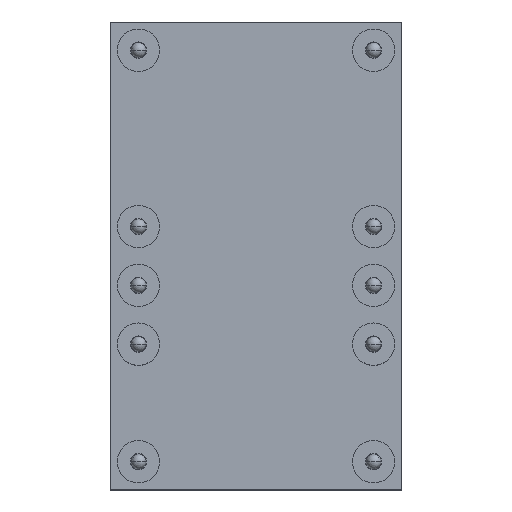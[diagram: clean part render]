
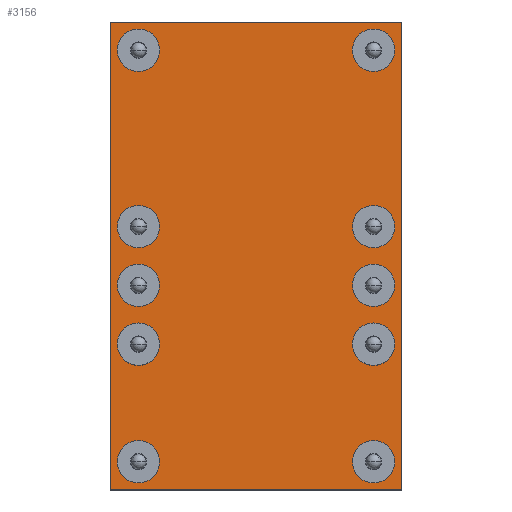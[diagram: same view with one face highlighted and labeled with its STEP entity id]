
A CAD part, top view. The second image highlights one B-rep face of the part: STEP entity #3156.
In plain terms, the highlighted planar face has unit normal (0, 0, 1) as drawn and (0, 0, -1) by its records, which use the part's own axes.
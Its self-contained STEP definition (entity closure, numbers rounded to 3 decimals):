
#1927=CARTESIAN_POINT('',(1.423,13.914,-0.031));
#1928=VERTEX_POINT('',#1927);
#1944=CARTESIAN_POINT('',(0.255,13.914,-0.031));
#1945=VERTEX_POINT('',#1944);
#1952=CARTESIAN_POINT('',(0.839,13.914,-0.031));
#1953=DIRECTION('',(0.0,0.0,1.0));
#1954=DIRECTION('',(1.0,0.0,0.0));
#1955=AXIS2_PLACEMENT_3D('',#1952,#1953,#1954);
#1956=CIRCLE('',#1955,0.584);
#1957=EDGE_CURVE('',#1928,#1945,#1956,.T.);
#1969=CARTESIAN_POINT('',(1.423,1.214,-0.031));
#1970=VERTEX_POINT('',#1969);
#1986=CARTESIAN_POINT('',(0.255,1.214,-0.031));
#1987=VERTEX_POINT('',#1986);
#1994=CARTESIAN_POINT('',(0.839,1.214,-0.031));
#1995=DIRECTION('',(0.0,0.0,1.0));
#1996=DIRECTION('',(1.0,0.0,0.0));
#1997=AXIS2_PLACEMENT_3D('',#1994,#1995,#1996);
#1998=CIRCLE('',#1997,0.584);
#1999=EDGE_CURVE('',#1970,#1987,#1998,.T.);
#2011=CARTESIAN_POINT('',(23.648,13.914,-0.031));
#2012=VERTEX_POINT('',#2011);
#2028=CARTESIAN_POINT('',(22.48,13.914,-0.031));
#2029=VERTEX_POINT('',#2028);
#2036=CARTESIAN_POINT('',(23.064,13.914,-0.031));
#2037=DIRECTION('',(0.0,0.0,1.0));
#2038=DIRECTION('',(1.0,0.0,0.0));
#2039=AXIS2_PLACEMENT_3D('',#2036,#2037,#2038);
#2040=CIRCLE('',#2039,0.584);
#2041=EDGE_CURVE('',#2012,#2029,#2040,.T.);
#2053=CARTESIAN_POINT('',(23.648,1.214,-0.031));
#2054=VERTEX_POINT('',#2053);
#2070=CARTESIAN_POINT('',(22.48,1.214,-0.031));
#2071=VERTEX_POINT('',#2070);
#2078=CARTESIAN_POINT('',(23.064,1.214,-0.031));
#2079=DIRECTION('',(0.0,0.0,1.0));
#2080=DIRECTION('',(1.0,0.0,0.0));
#2081=AXIS2_PLACEMENT_3D('',#2078,#2079,#2080);
#2082=CIRCLE('',#2081,0.584);
#2083=EDGE_CURVE('',#2054,#2071,#2082,.T.);
#2095=CARTESIAN_POINT('',(10.948,13.914,-0.031));
#2096=VERTEX_POINT('',#2095);
#2112=CARTESIAN_POINT('',(9.78,13.914,-0.031));
#2113=VERTEX_POINT('',#2112);
#2120=CARTESIAN_POINT('',(10.364,13.914,-0.031));
#2121=DIRECTION('',(0.0,0.0,1.0));
#2122=DIRECTION('',(1.0,0.0,0.0));
#2123=AXIS2_PLACEMENT_3D('',#2120,#2121,#2122);
#2124=CIRCLE('',#2123,0.584);
#2125=EDGE_CURVE('',#2096,#2113,#2124,.T.);
#2137=CARTESIAN_POINT('',(14.123,13.914,-0.031));
#2138=VERTEX_POINT('',#2137);
#2154=CARTESIAN_POINT('',(12.955,13.914,-0.031));
#2155=VERTEX_POINT('',#2154);
#2162=CARTESIAN_POINT('',(13.539,13.914,-0.031));
#2163=DIRECTION('',(0.0,0.0,1.0));
#2164=DIRECTION('',(1.0,0.0,0.0));
#2165=AXIS2_PLACEMENT_3D('',#2162,#2163,#2164);
#2166=CIRCLE('',#2165,0.584);
#2167=EDGE_CURVE('',#2138,#2155,#2166,.T.);
#2179=CARTESIAN_POINT('',(7.773,13.914,-0.031));
#2180=VERTEX_POINT('',#2179);
#2196=CARTESIAN_POINT('',(6.605,13.914,-0.031));
#2197=VERTEX_POINT('',#2196);
#2204=CARTESIAN_POINT('',(7.189,13.914,-0.031));
#2205=DIRECTION('',(0.0,0.0,1.0));
#2206=DIRECTION('',(1.0,0.0,0.0));
#2207=AXIS2_PLACEMENT_3D('',#2204,#2205,#2206);
#2208=CIRCLE('',#2207,0.584);
#2209=EDGE_CURVE('',#2180,#2197,#2208,.T.);
#2768=CARTESIAN_POINT('',(7.189,13.914,-0.031));
#2769=DIRECTION('',(0.0,0.0,1.0));
#2770=DIRECTION('',(1.0,0.0,0.0));
#2771=AXIS2_PLACEMENT_3D('',#2768,#2769,#2770);
#2772=CIRCLE('',#2771,0.584);
#2773=EDGE_CURVE('',#2197,#2180,#2772,.T.);
#2792=CARTESIAN_POINT('',(13.539,13.914,-0.031));
#2793=DIRECTION('',(0.0,0.0,1.0));
#2794=DIRECTION('',(1.0,0.0,0.0));
#2795=AXIS2_PLACEMENT_3D('',#2792,#2793,#2794);
#2796=CIRCLE('',#2795,0.584);
#2797=EDGE_CURVE('',#2155,#2138,#2796,.T.);
#2816=CARTESIAN_POINT('',(10.364,13.914,-0.031));
#2817=DIRECTION('',(0.0,0.0,1.0));
#2818=DIRECTION('',(1.0,0.0,0.0));
#2819=AXIS2_PLACEMENT_3D('',#2816,#2817,#2818);
#2820=CIRCLE('',#2819,0.584);
#2821=EDGE_CURVE('',#2113,#2096,#2820,.T.);
#2840=CARTESIAN_POINT('',(23.064,1.214,-0.031));
#2841=DIRECTION('',(0.0,0.0,1.0));
#2842=DIRECTION('',(1.0,0.0,0.0));
#2843=AXIS2_PLACEMENT_3D('',#2840,#2841,#2842);
#2844=CIRCLE('',#2843,0.584);
#2845=EDGE_CURVE('',#2071,#2054,#2844,.T.);
#2864=CARTESIAN_POINT('',(23.064,13.914,-0.031));
#2865=DIRECTION('',(0.0,0.0,1.0));
#2866=DIRECTION('',(1.0,0.0,0.0));
#2867=AXIS2_PLACEMENT_3D('',#2864,#2865,#2866);
#2868=CIRCLE('',#2867,0.584);
#2869=EDGE_CURVE('',#2029,#2012,#2868,.T.);
#2888=CARTESIAN_POINT('',(0.839,1.214,-0.031));
#2889=DIRECTION('',(0.0,0.0,1.0));
#2890=DIRECTION('',(1.0,0.0,0.0));
#2891=AXIS2_PLACEMENT_3D('',#2888,#2889,#2890);
#2892=CIRCLE('',#2891,0.584);
#2893=EDGE_CURVE('',#1987,#1970,#2892,.T.);
#2912=CARTESIAN_POINT('',(0.839,13.914,-0.031));
#2913=DIRECTION('',(0.0,0.0,1.0));
#2914=DIRECTION('',(1.0,0.0,0.0));
#2915=AXIS2_PLACEMENT_3D('',#2912,#2913,#2914);
#2916=CIRCLE('',#2915,0.584);
#2917=EDGE_CURVE('',#1945,#1928,#2916,.T.);
#2945=CARTESIAN_POINT('',(24.588,15.438,-0.031));
#2946=VERTEX_POINT('',#2945);
#2953=CARTESIAN_POINT('',(-0.685,15.438,-0.031));
#2954=VERTEX_POINT('',#2953);
#2955=CARTESIAN_POINT('',(-0.685,15.438,-0.031));
#2956=DIRECTION('',(1.0,0.0,0.0));
#2957=VECTOR('',#2956,25.273);
#2958=LINE('',#2955,#2957);
#2959=EDGE_CURVE('',#2954,#2946,#2958,.T.);
#2983=CARTESIAN_POINT('',(24.588,-0.31,-0.031));
#2984=VERTEX_POINT('',#2983);
#2991=CARTESIAN_POINT('',(24.588,15.438,-0.031));
#2992=DIRECTION('',(0.0,-1.0,0.0));
#2993=VECTOR('',#2992,15.748);
#2994=LINE('',#2991,#2993);
#2995=EDGE_CURVE('',#2946,#2984,#2994,.T.);
#3014=CARTESIAN_POINT('',(-0.685,-0.31,-0.031));
#3015=VERTEX_POINT('',#3014);
#3022=CARTESIAN_POINT('',(24.588,-0.31,-0.031));
#3023=DIRECTION('',(-1.0,0.0,0.0));
#3024=VECTOR('',#3023,25.273);
#3025=LINE('',#3022,#3024);
#3026=EDGE_CURVE('',#2984,#3015,#3025,.T.);
#3044=CARTESIAN_POINT('',(-0.685,-0.31,-0.031));
#3045=DIRECTION('',(0.0,1.0,0.0));
#3046=VECTOR('',#3045,15.748);
#3047=LINE('',#3044,#3046);
#3048=EDGE_CURVE('',#3015,#2954,#3047,.T.);
#3117=CARTESIAN_POINT('',(11.952,7.564,-0.031));
#3118=DIRECTION('',(0.0,0.0,1.0));
#3119=DIRECTION('',(1.0,0.0,0.0));
#3120=AXIS2_PLACEMENT_3D('',#3117,#3118,#3119);
#3121=PLANE('',#3120);
#3122=ORIENTED_EDGE('',*,*,#3048,.T.);
#3123=ORIENTED_EDGE('',*,*,#2959,.T.);
#3124=ORIENTED_EDGE('',*,*,#2995,.T.);
#3125=ORIENTED_EDGE('',*,*,#3026,.T.);
#3126=EDGE_LOOP('',(#3122,#3123,#3124,#3125));
#3127=FACE_OUTER_BOUND('',#3126,.T.);
#3128=ORIENTED_EDGE('',*,*,#2773,.T.);
#3129=ORIENTED_EDGE('',*,*,#2209,.T.);
#3130=EDGE_LOOP('',(#3128,#3129));
#3131=FACE_BOUND('',#3130,.T.);
#3132=ORIENTED_EDGE('',*,*,#2797,.T.);
#3133=ORIENTED_EDGE('',*,*,#2167,.T.);
#3134=EDGE_LOOP('',(#3132,#3133));
#3135=FACE_BOUND('',#3134,.T.);
#3136=ORIENTED_EDGE('',*,*,#2821,.T.);
#3137=ORIENTED_EDGE('',*,*,#2125,.T.);
#3138=EDGE_LOOP('',(#3136,#3137));
#3139=FACE_BOUND('',#3138,.T.);
#3140=ORIENTED_EDGE('',*,*,#2845,.T.);
#3141=ORIENTED_EDGE('',*,*,#2083,.T.);
#3142=EDGE_LOOP('',(#3140,#3141));
#3143=FACE_BOUND('',#3142,.T.);
#3144=ORIENTED_EDGE('',*,*,#2869,.T.);
#3145=ORIENTED_EDGE('',*,*,#2041,.T.);
#3146=EDGE_LOOP('',(#3144,#3145));
#3147=FACE_BOUND('',#3146,.T.);
#3148=ORIENTED_EDGE('',*,*,#2893,.T.);
#3149=ORIENTED_EDGE('',*,*,#1999,.T.);
#3150=EDGE_LOOP('',(#3148,#3149));
#3151=FACE_BOUND('',#3150,.T.);
#3152=ORIENTED_EDGE('',*,*,#2917,.T.);
#3153=ORIENTED_EDGE('',*,*,#1957,.T.);
#3154=EDGE_LOOP('',(#3152,#3153));
#3155=FACE_BOUND('',#3154,.T.);
#3156=ADVANCED_FACE('',(#3127,#3131,#3135,#3139,#3143,#3147,#3151,#3155),#3121,.F.);
